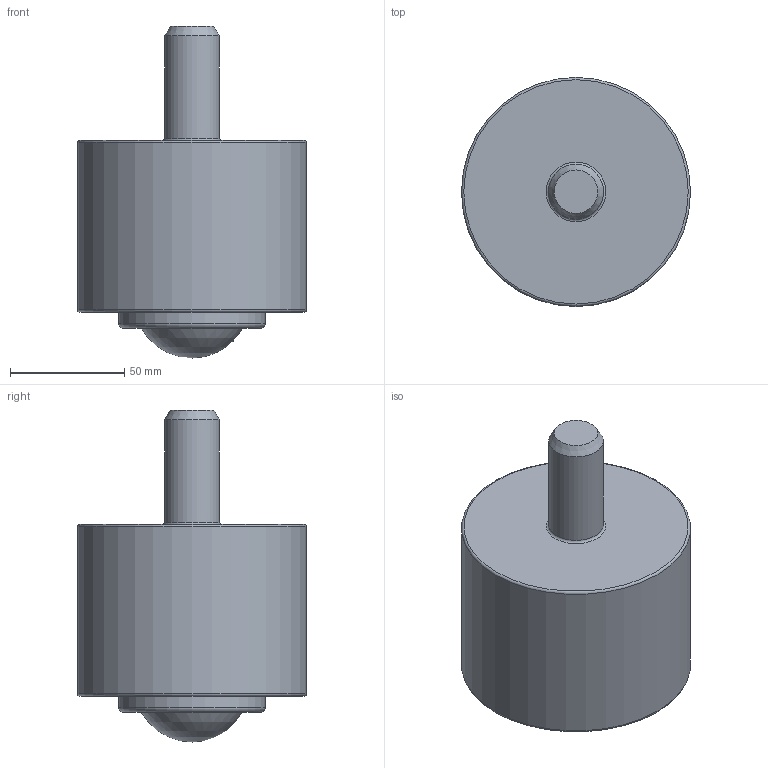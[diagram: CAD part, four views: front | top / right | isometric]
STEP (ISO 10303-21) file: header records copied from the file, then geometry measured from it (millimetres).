
FILE_DESCRIPTION(/* description */ (''),/* implementation_level */ '2;1');
FILE_NAME(/* name */ 'Z:\80-CAD共有ファイル\製品3D\X2\30C730FC30BF\X0\\12-IK-N\IK-51N.stp',/* time_stamp */ '2015-01-07T09:37:57+09:00',/* author */ ('yamaki'),/* organization */ (''),/* preprocessor_version */ 'ST-DEVELOPER v15.6',/* originating_system */ 'Autodesk Inventor 2015',/* authorisation */ '');
FILE_SCHEMA (('AUTOMOTIVE_DESIGN { 1 0 10303 214 3 1 1 }'));
Length unit declared in the file: millimetre
Products named in the file (1): 1251AA
Bounding box: 100 x 100 x 145 mm (x, y, z)
Volume: 624367.9 mm3; surface area: 51172.7 mm2
Topology: 1 solids, 1 shells, 34 faces, 67 edges, 42 vertices
Faces by surface type: plane 13, cylinder 11, torus 7, cone 2, sphere 1
Full cylindrical faces by diameter (mm): 3 x2, 24 x1, 47 x1, 64 x1, 90.1 x1, 100 x1
Entity records: 841 total; most frequent: DIRECTION 150, CARTESIAN_POINT 123, ORIENTED_EDGE 96, AXIS2_PLACEMENT_3D 67, EDGE_LOOP 58, EDGE_CURVE 48, VERTEX_POINT 40, STYLED_ITEM 35
